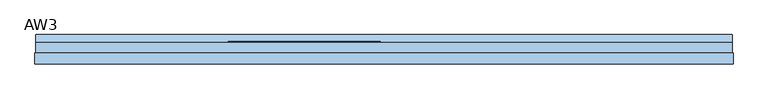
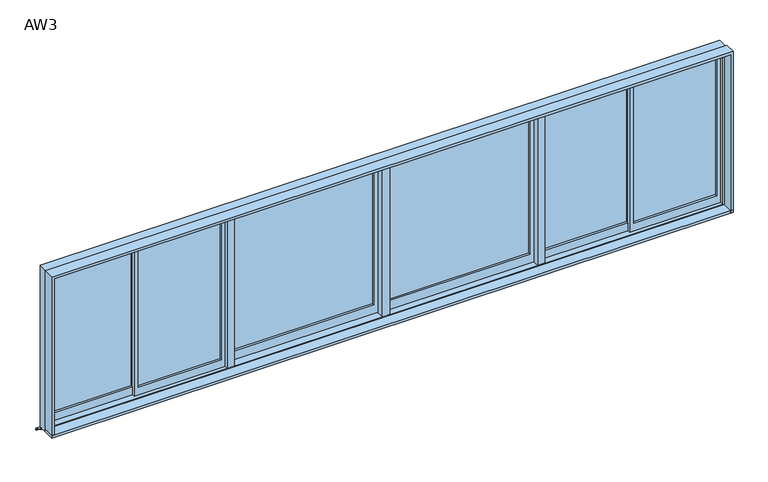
"""IFC4 building model written with IfcOpenShell, lengths in millimetres: window geometry, 営_連窓_引違い2+FIX2 : AW3."""

from ifc_helpers import new_model, si_unit, frame, origin, place, context, project, spatial, polyline, outline, extrude, source, transform, mapped, element, save


def aw3_6590dba5(model_context):
    return source(origin(), model_context, "Body", "SweptSolid", [
        extrude(outline(polyline([(-75.0, 25.0), (-1437.5, 25.0), (-1437.5, 30.0), (-75.0, 30.0), (-75.0, 25.0)])), frame((0.0, 0.0, 1190.0), z_axis=(0.0, 0.0, 1.0), x_axis=(1.0, 0.0, 0.0)), (0.0, 0.0, 1.0), 1455.0),
        extrude(outline(polyline([(1100.0, -35.0), (2685.0, -35.0), (2685.0, -1477.5), (1100.0, -1477.5), (1100.0, -35.0)]), holes=[polyline([(1190.0, -75.0), (1190.0, -1437.5), (2645.0, -1437.5), (2645.0, -75.0), (1190.0, -75.0)])]), frame((0.0, 5.0, 0.0), z_axis=(0.0, 1.0, 0.0), x_axis=(0.0, 0.0, 1.0)), (0.0, 0.0, 1.0), 30.0),
        extrude(outline(polyline([(3235.0, -20.0), (2430.0, -20.0), (2430.0, -15.0), (3235.0, -15.0), (3235.0, -20.0)])), frame((0.0, 0.0, 1180.0), z_axis=(0.0, 0.0, 1.0), x_axis=(1.0, 0.0, 0.0)), (0.0, 0.0, 1.0), 1465.0),
        extrude(outline(polyline([(2390.0, 10.0), (1585.0, 10.0), (1585.0, 15.0), (2390.0, 15.0), (2390.0, 10.0)])), frame((0.0, 0.0, 1180.0), z_axis=(0.0, 0.0, 1.0), x_axis=(1.0, 0.0, 0.0)), (0.0, 0.0, 1.0), 1465.0),
        extrude(outline(polyline([(1100.0, 3275.0), (2685.0, 3275.0), (2685.0, 2390.0), (1100.0, 2390.0), (1100.0, 3275.0)]), holes=[polyline([(1180.0, 3235.0), (1180.0, 2430.0), (2645.0, 2430.0), (2645.0, 3235.0), (1180.0, 3235.0)])]), frame((0.0, -40.0, 0.0), z_axis=(0.0, 1.0, 0.0), x_axis=(0.0, 0.0, 1.0)), (0.0, 0.0, 1.0), 30.0),
        extrude(outline(polyline([(1100.0, 2430.0), (2685.0, 2430.0), (2685.0, 1545.0), (1100.0, 1545.0), (1100.0, 2430.0)]), holes=[polyline([(1180.0, 2390.0), (1180.0, 1585.0), (2645.0, 1585.0), (2645.0, 2390.0), (1180.0, 2390.0)])]), frame((0.0, -10.0, 0.0), z_axis=(0.0, 1.0, 0.0), x_axis=(0.0, 0.0, 1.0)), (0.0, 0.0, 1.0), 30.0),
        extrude(outline(polyline([(1435.0, 10.0), (75.0, 10.0), (75.0, 15.0), (1435.0, 15.0), (1435.0, 10.0)])), frame((0.0, 0.0, 1190.0), z_axis=(0.0, 0.0, 1.0), x_axis=(1.0, 0.0, 0.0)), (0.0, 0.0, 1.0), 1455.0),
        extrude(outline(polyline([(1100.0, 1475.0), (2685.0, 1475.0), (2685.0, 35.0), (1100.0, 35.0), (1100.0, 1475.0)]), holes=[polyline([(1190.0, 1435.0), (1190.0, 75.0), (2645.0, 75.0), (2645.0, 1435.0), (1190.0, 1435.0)])]), frame((0.0, -10.0, 0.0), z_axis=(0.0, 1.0, 0.0), x_axis=(0.0, 0.0, 1.0)), (0.0, 0.0, 1.0), 30.0),
        extrude(outline(polyline([(-1585.0, -20.0), (-2390.0, -20.0), (-2390.0, -15.0), (-1585.0, -15.0), (-1585.0, -20.0)])), frame((0.0, 0.0, 1180.0), z_axis=(0.0, 0.0, 1.0), x_axis=(1.0, 0.0, 0.0)), (0.0, 0.0, 1.0), 1465.0),
        extrude(outline(polyline([(-2430.0, 10.0), (-3235.0, 10.0), (-3235.0, 15.0), (-2430.0, 15.0), (-2430.0, 10.0)])), frame((0.0, 0.0, 1180.0), z_axis=(0.0, 0.0, 1.0), x_axis=(1.0, 0.0, 0.0)), (0.0, 0.0, 1.0), 1465.0),
        extrude(outline(polyline([(1100.0, -1545.0), (2685.0, -1545.0), (2685.0, -2430.0), (1100.0, -2430.0), (1100.0, -1545.0)]), holes=[polyline([(1180.0, -1585.0), (1180.0, -2390.0), (2645.0, -2390.0), (2645.0, -1585.0), (1180.0, -1585.0)])]), frame((0.0, -40.0, 0.0), z_axis=(0.0, 1.0, 0.0), x_axis=(0.0, 0.0, 1.0)), (0.0, 0.0, 1.0), 30.0),
        extrude(outline(polyline([(1100.0, -2390.0), (2685.0, -2390.0), (2685.0, -3275.0), (1100.0, -3275.0), (1100.0, -2390.0)]), holes=[polyline([(1180.0, -2430.0), (1180.0, -3235.0), (2645.0, -3235.0), (2645.0, -2430.0), (1180.0, -2430.0)])]), frame((0.0, -10.0, 0.0), z_axis=(0.0, 1.0, 0.0), x_axis=(0.0, 0.0, 1.0)), (0.0, 0.0, 1.0), 30.0),
        extrude(outline(polyline([(-1475.0, -75.0), (-1545.0, -75.0), (-1545.0, 25.0), (-1475.0, 25.0), (-1475.0, -75.0)])), frame((0.0, 0.0, 1090.0), z_axis=(0.0, 0.0, 1.0), x_axis=(1.0, 0.0, 0.0)), (0.0, 0.0, 1.0), 1595.0),
        extrude(outline(polyline([(1545.0, -75.0), (1475.0, -75.0), (1475.0, 25.0), (1545.0, 25.0), (1545.0, -75.0)])), frame((0.0, 0.0, 1090.0), z_axis=(0.0, 0.0, 1.0), x_axis=(1.0, 0.0, 0.0)), (0.0, 0.0, 1.0), 1595.0),
        extrude(outline(polyline([(35.0, -75.0), (-35.0, -75.0), (-35.0, 25.0), (35.0, 25.0), (35.0, -75.0)])), frame((0.0, 0.0, 1090.0), z_axis=(0.0, 0.0, 1.0), x_axis=(1.0, 0.0, 0.0)), (0.0, 0.0, 1.0), 1595.0),
        extrude(outline(polyline([(3315.0, -180.0), (-3315.0, -180.0), (-3315.0, -75.0), (3315.0, -75.0), (3315.0, -180.0)])), frame((0.0, 0.0, 1065.0), z_axis=(0.0, 0.0, 1.0), x_axis=(1.0, 0.0, 0.0)), (0.0, 0.0, 1.0), 25.0),
        extrude(outline(polyline([(15.0, 1035.0), (100.0, 995.0), (100.0, 975.0), (95.0014518, 975.0), (95.0014518, 991.8262891), (10.0, 1031.8269723), (10.0, 1050.0), (15.0, 1050.0), (15.0, 1035.0)])), frame((-3305.0, 0.0, 0.0), z_axis=(1.0, 0.0, 0.0), x_axis=(0.0, 1.0, 0.0)), (0.0, 0.0, 1.0), 6610.0),
        extrude(outline(polyline([(1065.0, -3315.0), (1065.0, -3290.0), (2695.0, -3290.0), (2695.0, 3290.0), (1065.0, 3290.0), (1065.0, 3315.0), (2720.0, 3315.0), (2720.0, -3315.0), (1065.0, -3315.0)])), frame((0.0, -180.0, 0.0), z_axis=(0.0, 1.0, 0.0), x_axis=(0.0, 0.0, 1.0)), (0.0, 0.0, 1.0), 105.0),
        extrude(outline(polyline([(1050.0, -3305.0), (1050.0, -3275.0), (2685.0, -3275.0), (2685.0, 3275.0), (1050.0, 3275.0), (1050.0, 3305.0), (2715.0, 3305.0), (2715.0, -3305.0), (1050.0, -3305.0)])), frame((0.0, -75.0, 0.0), z_axis=(0.0, 1.0, 0.0), x_axis=(0.0, 0.0, 1.0)), (0.0, 0.0, 1.0), 100.0),
        extrude(outline(polyline([(-75.0, 1050.0), (-75.0, 1100.0), (25.0, 1090.6666667), (25.0, 1050.0), (-75.0, 1050.0)])), frame((-3275.0, 0.0, 0.0), z_axis=(1.0, 0.0, 0.0), x_axis=(0.0, 1.0, 0.0)), (0.0, 0.0, 1.0), 6550.0),
    ])


if __name__ == "__main__":
    model = new_model("IFC4")
    model_context = context("Model", 3, world=origin())
    ifc_project = project(units=[si_unit("LENGTHUNIT", "METRE", prefix="MILLI")], contexts=[model_context])
    site = spatial("IfcSite", under=ifc_project)
    building = spatial("IfcBuilding", under=site)
    placement = place(None, origin())
    aw3_shape = aw3_6590dba5(model_context)
    element("IfcWindow", 1, ObjectType="営_連窓_引違い2+FIX2 : AW3", at=placement, inside=building, context=model_context, shape_type="MappedRepresentation", body=[
        mapped(aw3_shape, transform((0.0, 0.0, 0.0), x_axis=(1.0, 0.0, 0.0), y_axis=(0.0, 1.0, 0.0), z_axis=(0.0, 0.0, 1.0))),
    ])
    save(model, "model.ifc")
